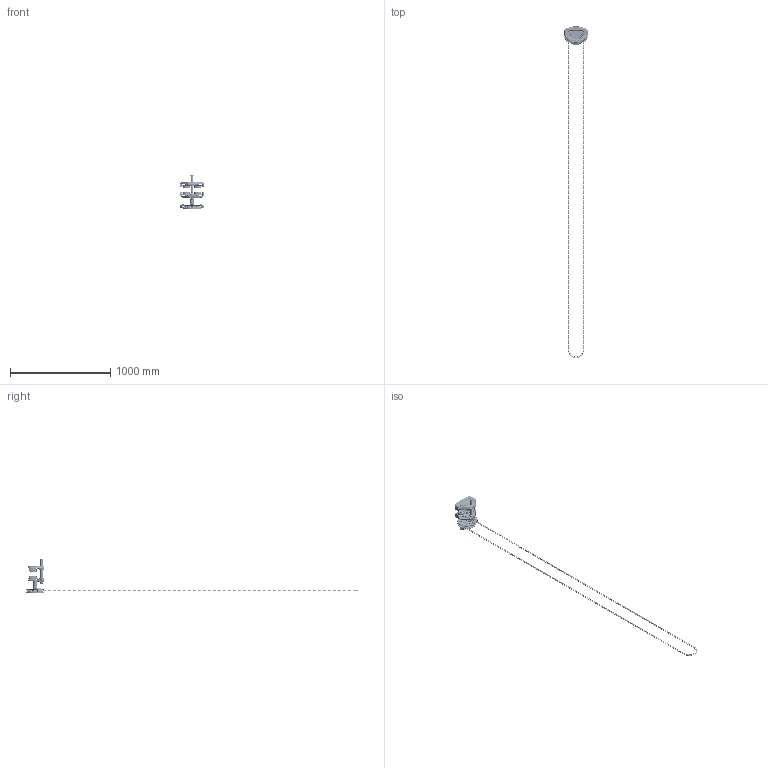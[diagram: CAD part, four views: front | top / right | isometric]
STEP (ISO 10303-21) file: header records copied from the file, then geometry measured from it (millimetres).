
FILE_DESCRIPTION (( 'STEP AP214' ), '1' );
FILE_NAME ('GTS2010.STEP', '2026-08-17T17:06:28', ( '' ), ( '' ), 'SwSTEP 2.0', 'SolidWorks 2026', '' );
FILE_SCHEMA (( 'AUTOMOTIVE_DESIGN' ));
Length unit declared in the file: inch
Products named in the file (31): 9047115_9047115; T6GA0109125; 6302Z BEARING; T6G123010; 9009423_9009423; T7GA0109141; T7GB0109122; T6G5102010; HCCF005 for GT2010; T6G5101010; T7GB0109121; T6GA0109113; T6GA0109102; T7G117010; HCCF005; T7GA0109142; T6GA0109103; T6GA0109101; T6G5121010; 9012515_9012515; T6GA0109112; T6G156010; T7GA0105112; GTS2010; L4082090_L4082090; MS104010; T7GB0105111; T6GA0109126; T7G115010; T6GA0109111; T6G800010G
Assembly tree (318 placements, depth 3):
  GTS2010
    T7GA0105112
      T6GA0109112
      T7GA0109141
      T7GA0109142
      T6GA0109113
      T6GA0109103  x2
    T7GB0105111
      T6GA0109111
      T7GA0109141
      T7GA0109142
      T6GA0109113
      T6GA0109103  x2
      T7GB0109122
    T6G5101010  x2
      T6GA0109102
      6302Z BEARING
    T6G5102010  x2
      T6GA0109101
      6302Z BEARING
    MS104010  x4
    9047115_9047115  x4
    T6G800010G
    T7G115010
    T7G117010
    T6G156010  x2
    9009423_9009423  x3
    T6G5121010
      T6GA0109125
      T6GA0109126
    T6G123010
    L4082090_L4082090  x2
    T7GB0109121
    HCCF005 for GT2010
      HCCF005  x270
    9012515_9012515
Bounding box: 247.13 x 3319.02 x 345.21 mm (x, y, z)
Volume: 1727823.3 mm3; surface area: 973756.3 mm2
Topology: 310 solids, 326 shells, 8396 faces, 20953 edges, 12834 vertices
Faces by surface type: cylinder 2854, plane 2751, torus 2123, cone 378, bspline 290
Entity records: 116071 total; most frequent: CARTESIAN_POINT 40448, ORIENTED_EDGE 16616, DIRECTION 13735, EDGE_CURVE 8310, AXIS2_PLACEMENT_3D 5526, VERTEX_POINT 5347, EDGE_LOOP 3215, FACE_OUTER_BOUND 3069
